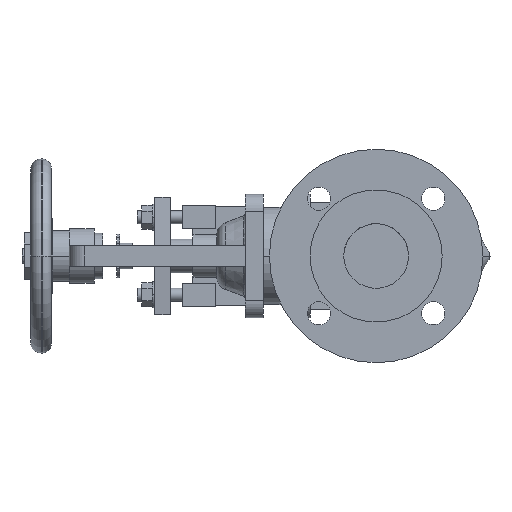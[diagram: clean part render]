
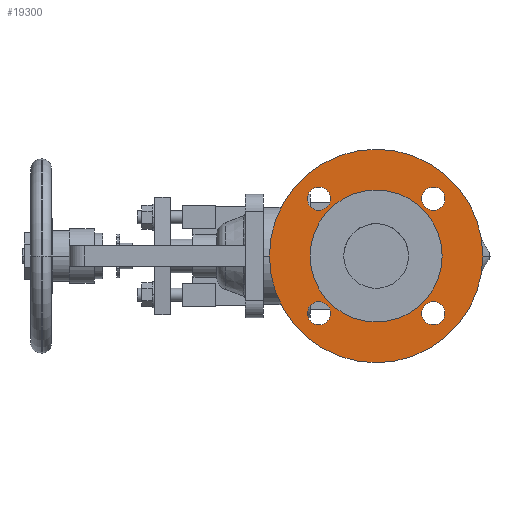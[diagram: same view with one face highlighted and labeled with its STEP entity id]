
A CAD part, left-side view. The second image highlights one B-rep face of the part: STEP entity #19300.
In plain terms, the highlighted planar face has unit normal (-1, 0, 0).
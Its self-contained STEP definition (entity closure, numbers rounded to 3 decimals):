
#3710=CARTESIAN_POINT('',(3.,51.,0.));
#3720=VERTEX_POINT('',#3710);
#3750=CARTESIAN_POINT('',(3.,0.,0.));
#3760=DIRECTION('',(-1.,0.,0.));
#3770=DIRECTION('',(0.,1.,0.));
#3780=AXIS2_PLACEMENT_3D('',#3750,#3760,#3770);
#3790=CIRCLE('',#3780,51.);
#3800=CARTESIAN_POINT('',(3.,-51.,0.));
#3810=VERTEX_POINT('',#3800);
#3820=EDGE_CURVE('',#3810,#3720,#3790,.T.);
#5220=CARTESIAN_POINT('',(3.,0.,-82.5));
#5230=VERTEX_POINT('',#5220);
#5260=CARTESIAN_POINT('',(3.,0.,0.));
#5270=DIRECTION('',(1.,0.,0.));
#5280=DIRECTION('',(0.,0.,-1.));
#5290=AXIS2_PLACEMENT_3D('',#5260,#5270,#5280);
#5300=CIRCLE('',#5290,82.5);
#5310=CARTESIAN_POINT('',(3.,0.,82.5));
#5320=VERTEX_POINT('',#5310);
#5330=EDGE_CURVE('',#5320,#5230,#5300,.T.);
#5710=CARTESIAN_POINT('',(3.,44.194,-53.194));
#5720=VERTEX_POINT('',#5710);
#5880=CARTESIAN_POINT('',(3.,44.194,-35.194));
#5890=VERTEX_POINT('',#5880);
#5920=CARTESIAN_POINT('',(3.,44.194,-44.194));
#5930=DIRECTION('',(1.,0.,0.));
#5940=DIRECTION('',(0.,0.,-1.));
#5950=AXIS2_PLACEMENT_3D('',#5920,#5930,#5940);
#5960=CIRCLE('',#5950,9.);
#5970=EDGE_CURVE('',#5890,#5720,#5960,.T.);
#6200=CARTESIAN_POINT('',(3.,-44.194,-35.194));
#6210=VERTEX_POINT('',#6200);
#6240=CARTESIAN_POINT('',(3.,-44.194,-44.194));
#6250=DIRECTION('',(1.,0.,0.));
#6260=DIRECTION('',(0.,0.,-1.));
#6270=AXIS2_PLACEMENT_3D('',#6240,#6250,#6260);
#6280=CIRCLE('',#6270,9.);
#6290=CARTESIAN_POINT('',(3.,-44.194,-53.194));
#6300=VERTEX_POINT('',#6290);
#6310=EDGE_CURVE('',#6210,#6300,#6280,.T.);
#6690=CARTESIAN_POINT('',(3.,-44.194,53.194));
#6700=VERTEX_POINT('',#6690);
#6860=CARTESIAN_POINT('',(3.,-44.194,35.194));
#6870=VERTEX_POINT('',#6860);
#6900=CARTESIAN_POINT('',(3.,-44.194,44.194));
#6910=DIRECTION('',(1.,0.,0.));
#6920=DIRECTION('',(0.,0.,-1.));
#6930=AXIS2_PLACEMENT_3D('',#6900,#6910,#6920);
#6940=CIRCLE('',#6930,9.);
#6950=EDGE_CURVE('',#6870,#6700,#6940,.T.);
#7180=CARTESIAN_POINT('',(3.,44.194,35.194));
#7190=VERTEX_POINT('',#7180);
#7350=CARTESIAN_POINT('',(3.,44.194,53.194));
#7360=VERTEX_POINT('',#7350);
#7390=CARTESIAN_POINT('',(3.,44.194,44.194));
#7400=DIRECTION('',(1.,0.,0.));
#7410=DIRECTION('',(0.,0.,-1.));
#7420=AXIS2_PLACEMENT_3D('',#7390,#7400,#7410);
#7430=CIRCLE('',#7420,9.);
#7440=EDGE_CURVE('',#7360,#7190,#7430,.T.);
#18950=CARTESIAN_POINT('',(3.,0.,0.));
#18960=DIRECTION('',(1.,0.,0.));
#18970=DIRECTION('',(0.,0.,-1.));
#18980=AXIS2_PLACEMENT_3D('',#18950,#18960,#18970);
#18990=PLANE('',#18980);
#19000=EDGE_CURVE('',#7190,#7360,#7430,.T.);
#19010=ORIENTED_EDGE('',*,*,#19000,.T.);
#19020=ORIENTED_EDGE('',*,*,#7440,.T.);
#19030=EDGE_LOOP('',(#19020,#19010));
#19040=FACE_BOUND('',#19030,.T.);
#19050=EDGE_CURVE('',#6700,#6870,#6940,.T.);
#19060=ORIENTED_EDGE('',*,*,#19050,.T.);
#19070=ORIENTED_EDGE('',*,*,#6950,.T.);
#19080=EDGE_LOOP('',(#19070,#19060));
#19090=FACE_BOUND('',#19080,.T.);
#19100=ORIENTED_EDGE('',*,*,#6310,.T.);
#19110=EDGE_CURVE('',#6300,#6210,#6280,.T.);
#19120=ORIENTED_EDGE('',*,*,#19110,.T.);
#19130=EDGE_LOOP('',(#19120,#19100));
#19140=FACE_BOUND('',#19130,.T.);
#19150=EDGE_CURVE('',#5720,#5890,#5960,.T.);
#19160=ORIENTED_EDGE('',*,*,#19150,.T.);
#19170=ORIENTED_EDGE('',*,*,#5970,.T.);
#19180=EDGE_LOOP('',(#19170,#19160));
#19190=FACE_BOUND('',#19180,.T.);
#19200=ORIENTED_EDGE('',*,*,#5330,.F.);
#19210=EDGE_CURVE('',#5230,#5320,#5300,.T.);
#19220=ORIENTED_EDGE('',*,*,#19210,.F.);
#19230=EDGE_LOOP('',(#19220,#19200));
#19240=FACE_OUTER_BOUND('',#19230,.T.);
#19250=EDGE_CURVE('',#3720,#3810,#3790,.T.);
#19260=ORIENTED_EDGE('',*,*,#19250,.F.);
#19270=ORIENTED_EDGE('',*,*,#3820,.F.);
#19280=EDGE_LOOP('',(#19270,#19260));
#19290=FACE_BOUND('',#19280,.T.);
#19300=ADVANCED_FACE('',(#19040,#19090,#19140,#19190,#19240,#19290),
#18990,.F.);
